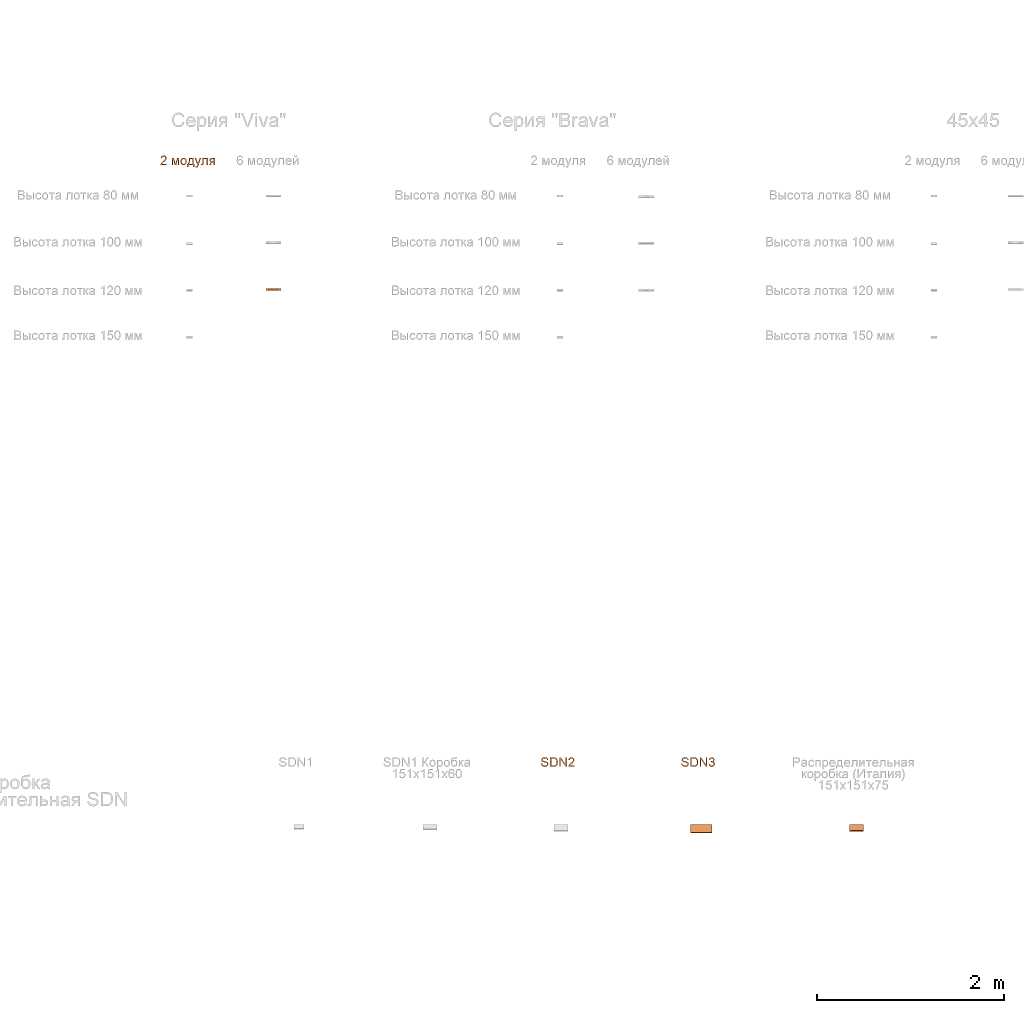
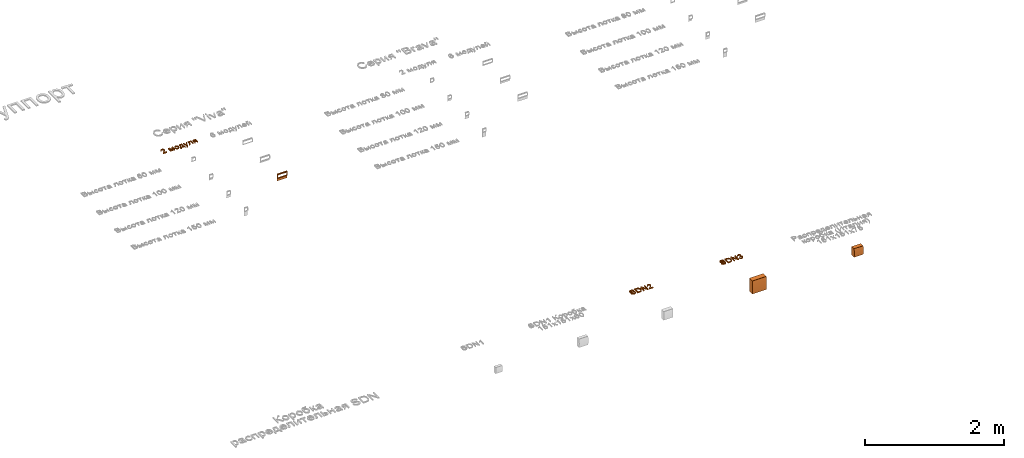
# One storey, part 35 of 71: 6 proxies.
"""IFC2X3 building model written with IfcOpenShell, lengths in millimetres."""

from ifc_helpers import new_model, entity, si_unit, converted_unit, derived_unit, direction, frame, origin, place, context, subcontext, project, spatial, polyline, outline, extrude, faceted_brep, source, transform, mapped, material, type_object, type_shapes, element, save


model = new_model("IFC2X3")

# Units and contexts
model_context = context("Model", 3, precision=0.01, world=origin(), true_north=direction((6.12303176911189e-17, 1.0)))
body_context = subcontext(model_context, "Body", "Model", "MODEL_VIEW")
ifc_project = project(units=[si_unit("LENGTHUNIT", "METRE", prefix="MILLI"), si_unit("AREAUNIT", "SQUARE_METRE"), si_unit("VOLUMEUNIT", "CUBIC_METRE"), converted_unit("PLANEANGLEUNIT", "DEGREE", entity("IfcRatioMeasure", 0.0174532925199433), si_unit("PLANEANGLEUNIT", "RADIAN"), dimensions=[0, 0, 0, 0, 0, 0, 0]), si_unit("MASSUNIT", "GRAM", prefix="KILO"), derived_unit("MASSDENSITYUNIT", [(si_unit("MASSUNIT", "GRAM", prefix="KILO"), 1), (si_unit("LENGTHUNIT", "METRE"), -3)]), si_unit("TIMEUNIT", "SECOND"), si_unit("FREQUENCYUNIT", "HERTZ"), si_unit("THERMODYNAMICTEMPERATUREUNIT", "DEGREE_CELSIUS"), derived_unit("THERMALTRANSMITTANCEUNIT", [(si_unit("MASSUNIT", "GRAM", prefix="KILO"), 1), (si_unit("THERMODYNAMICTEMPERATUREUNIT", "KELVIN"), -1), (si_unit("TIMEUNIT", "SECOND"), -3)]), derived_unit("VOLUMETRICFLOWRATEUNIT", [(si_unit("LENGTHUNIT", "METRE"), 3), (si_unit("TIMEUNIT", "SECOND"), -1)]), si_unit("ELECTRICCURRENTUNIT", "AMPERE"), si_unit("ELECTRICVOLTAGEUNIT", "VOLT"), si_unit("POWERUNIT", "WATT"), si_unit("FORCEUNIT", "NEWTON", prefix="KILO"), si_unit("ILLUMINANCEUNIT", "LUX"), si_unit("LUMINOUSFLUXUNIT", "LUMEN"), si_unit("LUMINOUSINTENSITYUNIT", "CANDELA"), derived_unit("USERDEFINED", [(si_unit("MASSUNIT", "GRAM", prefix="KILO"), -1), (si_unit("LENGTHUNIT", "METRE"), -2), (si_unit("TIMEUNIT", "SECOND"), 3), (si_unit("LUMINOUSFLUXUNIT", "LUMEN"), 1)]), derived_unit("LINEARVELOCITYUNIT", [(si_unit("LENGTHUNIT", "METRE"), 1), (si_unit("TIMEUNIT", "SECOND"), -1)]), si_unit("PRESSUREUNIT", "PASCAL"), derived_unit("USERDEFINED", [(si_unit("LENGTHUNIT", "METRE"), -2), (si_unit("MASSUNIT", "GRAM", prefix="KILO"), 1), (si_unit("TIMEUNIT", "SECOND"), -2)])], contexts=[model_context])

# Site, building, storey
site_placement = place(None, origin())
site = spatial("IfcSite", under=ifc_project, at=site_placement, Name="Default", CompositionType="ELEMENT")
building_placement = place(site_placement, origin())
building = spatial("IfcBuilding", under=site, at=building_placement, Name="Наименование здания", CompositionType="ELEMENT")
storey_placement = place(building_placement, origin())
storey = spatial("IfcBuildingStorey", under=building, at=storey_placement, Name="Этаж 01", CompositionType="ELEMENT", Elevation=0.0)

# Proxies
ifc_material = material(Name="DKC_Пластик_Белый")
building_element_proxy_type_1 = type_object("IfcBuildingElementProxyType", Name="Серия \"Viva\"", PredefinedType="NOTDEFINED", material=ifc_material)
shared_shape_1 = source(origin(), body_context, "Body", "Brep", [
    faceted_brep([(-73.8192492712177, -18.0, 46.8192492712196), (-70.9686648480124, -18.0, 48.0), (-82.0, -18.0, 48.0), (-82.0, -18.0, -2.0), (-70.9686648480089, -18.0, -2.0), (-73.8192492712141, -18.0, -0.819249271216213), (-75.0, -18.0, 2.0313351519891), (-75.0, -18.0, 43.9686648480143), (82.0, -18.0, 48.0), (70.9686648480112, -18.0, 48.0), (73.8192492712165, -18.0, 46.8192492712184), (75.0, -18.0, 43.9686648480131), (75.0, -18.0, 2.03133515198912), (73.8192492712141, -18.0, -0.819249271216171), (70.9686648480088, -18.0, -2.0), (82.0, -18.0, -2.0), (82.0, -1.0, -60.0), (82.0, 8.40000000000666, -60.0), (82.0, 8.40000000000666, -59.0), (82.0, 0.0, -59.0), (82.0, 0.0, 59.0), (82.0, 8.40000000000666, 59.0), (82.0, 8.40000000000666, 60.0), (82.0, -1.0, 60.0), (82.0, -5.39126188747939, 59.4574348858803), (82.0, -9.51840787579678, 57.862372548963), (82.0, -13.1332075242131, 55.310749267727), (82.0, -16.018245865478, 51.9560344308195), (82.0, -16.0182458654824, -5.95603443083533), (82.0, -13.133207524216, -9.31074926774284), (82.0, -9.51840787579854, -11.8623725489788), (82.0, -5.39126188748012, -13.457434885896), (82.0, -1.0, -14.0), (-82.0, -1.0, 60.0), (-82.0, 8.40000000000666, 60.0), (-82.0, 8.40000000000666, 59.0), (-82.0, 0.0, 59.0), (-82.0, 0.0, -59.0), (-82.0, 8.40000000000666, -59.0), (-82.0, 8.40000000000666, -60.0), (-82.0, -1.0, -60.0), (-82.0, -1.0, -14.0), (-82.0, -5.39126188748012, -13.457434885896), (-82.0, -9.51840787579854, -11.8623725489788), (-82.0, -13.133207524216, -9.31074926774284), (-82.0, -16.0182458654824, -5.95603443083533), (-82.0, -16.018245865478, 51.9560344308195), (-82.0, -13.1332075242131, 55.310749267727), (-82.0, -9.51840787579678, 57.862372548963), (-82.0, -5.39126188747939, 59.4574348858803), (-7.84403318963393, -1.0, 60.0), (7.84408283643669, -1.0, -14.0), (75.0, 0.0, 2.03133515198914), (73.819249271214, 0.0, -0.819249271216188), (70.9686648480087, 0.0, -2.0), (-70.9686648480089, 0.0, -2.0), (-73.8192492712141, 0.0, -0.819249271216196), (-75.0, 0.0, 2.0313351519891), (-75.0, 0.0, 43.9686648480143), (-73.8192492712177, 0.0, 46.8192492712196), (-70.9686648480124, 0.0, 48.0), (75.0, 0.0, 43.9686648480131), (73.8192492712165, 0.0, 46.8192492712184), (70.9686648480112, 0.0, 48.0), (-1.05664262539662e-07, -7.50391799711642, 58.7869038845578), (10.4878486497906, -16.6040193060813, 51.0146194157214), (0.0, -18.0, 48.0), (-8.03406533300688e-08, -11.4043260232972, 56.6977951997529), (6.74916057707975e-08, -14.6789576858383, 53.7221699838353), (-10.7041046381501, -4.32349317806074, 59.6912442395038), (-10.4878486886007, -16.6040193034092, -5.01461942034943), (0.0, -18.0, -2.0), (-2.78578905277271e-08, -14.6789576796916, -7.72216999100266), (2.49660769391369e-08, -11.4043260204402, -10.6977952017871), (10.7041051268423, -4.32349317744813, -13.6912442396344), (-2.08968314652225e-08, -7.50391799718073, -12.7869038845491)], [[[0, 1, 2, 3, 4, 5, 6, 7]], [[8, 9, 10, 11, 12, 13, 14, 15]], [[16, 17, 18, 19, 20, 21, 22, 23, 24, 25, 26, 27, 8, 15, 28, 29, 30, 31, 32]], [[33, 34, 35, 36, 37, 38, 39, 40, 41, 42, 43, 44, 45, 3, 2, 46, 47, 48, 49]], [[22, 21, 35, 34]], [[18, 17, 39, 38]], [[22, 34, 33, 50, 23]], [[16, 32, 51, 41, 40]], [[17, 16, 40, 39]], [[19, 18, 38, 37]], [[19, 52, 20]], [[52, 19, 53]], [[54, 53, 19]], [[19, 37, 54]], [[55, 54, 37]], [[56, 55, 37]], [[37, 57, 56]], [[57, 37, 36]], [[36, 58, 57]], [[58, 36, 59]], [[60, 59, 36]], [[60, 36, 20]], [[61, 20, 52]], [[20, 61, 62]], [[62, 63, 20]], [[20, 63, 60]], [[21, 20, 36, 35]], [[64, 49, 48]], [[9, 65, 1, 66]], [[67, 48, 47]], [[67, 47, 68]], [[69, 49, 64]], [[23, 69, 24]], [[68, 26, 67]], [[25, 24, 64]], [[64, 67, 25]], [[26, 25, 67]], [[46, 2, 1]], [[9, 8, 27]], [[33, 69, 23, 50]], [[64, 48, 67]], [[27, 65, 9]], [[26, 68, 27]], [[68, 65, 27]], [[65, 46, 1]], [[24, 69, 64]], [[68, 47, 46]], [[46, 65, 68]], [[33, 49, 69]], [[4, 3, 45]], [[28, 15, 14]], [[4, 70, 14, 71]], [[72, 45, 44]], [[72, 44, 73]], [[70, 45, 72]], [[74, 42, 41]], [[45, 70, 4]], [[29, 28, 72]], [[75, 43, 42]], [[32, 74, 41, 51]], [[42, 74, 75]], [[74, 32, 31]], [[29, 73, 30]], [[75, 73, 43]], [[75, 31, 30]], [[74, 31, 75]], [[73, 29, 72]], [[70, 28, 14]], [[73, 44, 43]], [[28, 70, 72]], [[73, 75, 30]], [[60, 63, 9, 66, 1]], [[0, 59, 60, 1]], [[7, 58, 59, 0]], [[58, 7, 6, 57]], [[5, 56, 57, 6]], [[4, 55, 56, 5]], [[55, 4, 71, 14, 54]], [[13, 53, 54, 14]], [[12, 52, 53, 13]], [[52, 12, 11, 61]], [[10, 62, 61, 11]], [[9, 63, 62, 10]]]),
])
type_shapes(building_element_proxy_type_1, [shared_shape_1])
proxy_1_placement = place(storey_placement, frame((4609.30353125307, -12923.4358834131, 0.0)))
element("IfcBuildingElementProxy", 1, at=proxy_1_placement, inside=storey, type_object=building_element_proxy_type_1, material=ifc_material, Name="КНС_РамкаСуппорт_ILC_DKC:Серия \"Viva\"", ObjectType="Серия \"Viva\"", context=body_context, shape_type="MappedRepresentation", body=[
    mapped(shared_shape_1, transform((0.0, 0.0, 0.0), scale=1.0)),
])
building_element_proxy_type_2 = type_object("IfcBuildingElementProxyType", Name="SDN3", PredefinedType="NOTDEFINED", material=ifc_material)
shared_shape_2 = source(origin(), body_context, "Body", "SweptSolid", [
    extrude(outline(polyline([(-68.4329595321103, -93.2812291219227), (-66.5870337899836, -93.2812291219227), (-58.5828627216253, -87.8799276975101), (-45.4173726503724, -75.7021716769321), (-28.1571532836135, -57.7345304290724), (-8.2005249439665, -35.4326353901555), (12.8357450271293, -10.6032534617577), (33.2474231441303, 14.7420864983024), (51.3808766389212, 38.5500557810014), (65.7670409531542, 58.8918743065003), (75.2404346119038, 74.119568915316), (79.0335796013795, 82.9994823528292), (78.6851036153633, 84.8122168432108), (13.1528832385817, 138.946569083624), (-133.965179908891, -39.1468768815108), (-68.4329595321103, -93.2812291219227)])), frame((-115.5, -78.3511161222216, 0.0), z_axis=(1.0, 0.0, 0.0), x_axis=(0.0, -0.770967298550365, -0.636874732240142)), (0.0, 0.0, 1.0), 231.0),
])
type_shapes(building_element_proxy_type_2, [shared_shape_2])
proxy_2_placement = place(storey_placement, frame((9181.62924654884, -18646.77075177, 0.0)))
element("IfcBuildingElementProxy", 2, at=proxy_2_placement, inside=storey, type_object=building_element_proxy_type_2, material=ifc_material, Name="КНС_КоробкаРаспределительнаяSDN_ILC_DKC:SDN3", ObjectType="SDN3", context=body_context, shape_type="MappedRepresentation", body=[
    mapped(shared_shape_2, transform((0.0, 0.0, 0.0), scale=1.0)),
])
building_element_proxy_type_3 = type_object("IfcBuildingElementProxyType", Name="Распределительная коробка (Италия) 151х151х75", PredefinedType="NOTDEFINED", material=ifc_material)
shared_shape_3 = source(origin(), body_context, "Body", "SweptSolid", [
    extrude(outline(polyline([(-32.3690628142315, -68.3253380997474), (-30.7516838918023, -68.3253380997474), (-25.4720067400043, -64.2957019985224), (-17.8448663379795, -55.2104980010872), (-8.48816824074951, -41.8057553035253), (1.84006351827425, -25.1674464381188), (12.3030970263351, -6.64350823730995), (22.0532795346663, 12.265359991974), (30.3007092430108, 30.0272742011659), (36.3772284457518, 45.2032697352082), (39.7905536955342, 56.5638776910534), (40.2641576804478, 63.1887291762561), (39.3770507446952, 64.5411181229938), (-17.8171191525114, 95.4252067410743), (-89.563232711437, -37.4412494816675), (-32.3690628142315, -68.3253380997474)])), frame((-75.5, -61.0177827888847, 0.0), z_axis=(1.0, 0.0, 0.0), x_axis=(0.0, -0.879910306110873, -0.475139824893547)), (0.0, 0.0, 1.0), 151.0),
])
type_shapes(building_element_proxy_type_3, [shared_shape_3])
proxy_3_placement = place(storey_placement, frame((10841.6292465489, -18646.77075177, 0.0)))
element("IfcBuildingElementProxy", 3, at=proxy_3_placement, inside=storey, type_object=building_element_proxy_type_3, material=ifc_material, Name="КНС_КоробкаРаспределительнаяSDN_ILC_DKC:Распределительная коробка (Италия) 151х151х75", ObjectType="Распределительная коробка (Италия) 151х151х75", context=body_context, shape_type="MappedRepresentation", body=[
    mapped(shared_shape_3, transform((0.0, 0.0, 0.0), scale=1.0)),
])
proxy_4_placement = place(storey_placement, origin())
element("IfcBuildingElementProxy", 4, at=proxy_4_placement, inside=storey, Name="Текст модели:100 мм Arial", ObjectType="Текст модели:100 мм Arial", context=body_context, shape_type="SweptSolid", body=[
    extrude(outline(polyline([(-32.3858783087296, -45.1669477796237), (-32.3858783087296, -57.7239865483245), (33.5385752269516, -57.7239865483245), (32.1896745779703, -49.0664969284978), (24.5622545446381, -35.7369059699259), (8.84143061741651, -21.1810416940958), (-12.8390816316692, -0.260818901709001), (-18.2592096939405, 13.9639515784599), (-13.1456499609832, 25.4786580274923), (0.208466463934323, 30.1752848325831), (14.1266686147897, 25.5890226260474), (19.4119066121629, 12.9093565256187), (31.9689453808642, 14.4789863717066), (28.9247218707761, 26.6252235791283), (22.3426998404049, 35.4973110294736), (12.5662358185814, 40.9235704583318), (-0.0613136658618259, 42.7323236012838), (-12.7808336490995, 40.721235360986), (-22.5389035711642, 34.6879706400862), (-28.7469122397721, 25.6748617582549), (-30.8162484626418, 14.7242410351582), (-28.5844310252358, 2.81712712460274), (-21.1654774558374, -9.49465698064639), (-3.17604789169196, -26.6992716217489), (11.2694517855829, -38.7780637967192), (16.9348345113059, -45.1669477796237), (-32.3858783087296, -45.1669477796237)])), frame((3435.30963024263, -11538.3791772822, 0.0), z_axis=(0.0, 0.0, -1.0), x_axis=(-1.0, 0.0, 0.0)), (0.0, 0.0, -1.0), 20.0),
    extrude(outline(polyline([(-40.5839870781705, -38.4502715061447), (33.1886156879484, -38.4502715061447), (33.1886156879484, -25.8932327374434), (-29.0570178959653, -25.8932327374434), (33.1886156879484, -8.62730443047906), (33.1886156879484, 7.85380895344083), (-26.2120637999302, 25.9045521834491), (33.1886156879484, 25.9045521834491), (33.1886156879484, 38.4615909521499), (-40.5839870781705, 38.4615909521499), (-40.5839870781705, 17.7620973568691), (18.4733358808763, -0.190544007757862), (-40.5839870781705, -16.8433356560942), (-40.5839870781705, -38.4502715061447)])), frame((3561.08282467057, -11562.9145481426, 0.0), z_axis=(0.0, 0.0, 1.0), x_axis=(0.0, -1.0, 0.0)), (0.0, 0.0, 1.0), 20.0),
    extrude(outline(polyline([(-2.34029740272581, -31.6984909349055), (14.2731811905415, -31.6984909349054), (27.1869525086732, -26.5873672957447), (35.9909592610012, -17.1811275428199), (40.2751441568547, -4.29577920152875), (38.1491713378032, 13.1690451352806), (27.2514955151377, 26.6485362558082), (5.67797919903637, 33.7446283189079), (-10.1280544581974, 33.6081083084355), (-22.8059382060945, 28.3900569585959), (-31.6389568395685, 18.9754531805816), (-35.910395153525, 6.24927588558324), (-35.5406401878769, -5.97109031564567), (-30.8535887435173, -16.7835237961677), (-19.5870121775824, -26.5692340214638), (-2.34029740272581, -31.6984909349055)]), holes=[polyline([(-0.642949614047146, -19.256672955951), (-11.6948097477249, -16.2599663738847), (-19.0989004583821, -10.8341828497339), (-22.9822632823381, -3.67356758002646), (-23.4719397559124, 4.52763423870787), (-20.7783225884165, 12.2046648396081), (-15.0781786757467, 18.0357050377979), (-6.56600936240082, 21.2863283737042), (4.56368400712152, 21.2221083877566), (15.8675929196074, 18.1905150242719), (23.3961896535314, 12.7474982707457), (27.3267847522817, 5.59272509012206), (27.8366887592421, -2.57413755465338), (25.1317228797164, -10.3331599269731), (19.431158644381, -16.167236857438), (10.8134498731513, -19.3753979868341), (-0.642949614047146, -19.256672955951)])]), frame((3646.96072598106, -11557.1890151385, 0.0), z_axis=(0.0, 0.0, 1.0), x_axis=(0.137105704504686, -0.990556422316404, 0.0)), (0.0, 0.0, 1.0), 20.0),
    extrude(outline(polyline([(-60.5357741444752, 21.8585403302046), (-64.1355131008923, -25.0925613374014), (-3.09908093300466, -29.7722219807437), (-3.81902872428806, -39.1624423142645), (29.0467424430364, -41.6822595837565), (30.0066728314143, -29.1619658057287), (9.66119544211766, -27.6020789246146), (13.6209082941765, 24.0441329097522), (33.9663856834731, 22.4842460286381), (34.926316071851, 35.0045398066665), (2.06054490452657, 37.5243570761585), (1.46058841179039, 29.6991734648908), (-23.1599571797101, 21.8585403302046), (-60.5357741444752, 21.8585403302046)]), holes=[polyline([(-48.855419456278, 9.94335288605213), (-20.1051961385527, 10.69076783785), (0.380666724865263, 15.6138429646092), (-2.13915054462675, -17.2519282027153), (-50.6552889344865, -13.5321979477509), (-48.855419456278, 9.94335288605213)])]), frame((3723.4461283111, -11584.360181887, 0.0), z_axis=(0.0, 0.0, -1.0), x_axis=(-0.0764456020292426, -0.997073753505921, 0.0)), (0.0, 0.0, -1.0), 20.0),
    extrude(outline(polyline([(-9.37518561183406, -42.4598564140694), (-1.53988444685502, -42.4598564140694), (7.48239978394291, -37.7362595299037), (12.8451650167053, -27.6028387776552), (16.0988896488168, -10.2155558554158), (26.1240678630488, 68.9356869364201), (13.2448947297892, 66.3022457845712), (7.58427059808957, 21.3872733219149), (5.65333119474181, 6.22303112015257), (-2.4583338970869, 21.286400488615), (-24.5276055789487, 58.5787952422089), (-37.5028919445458, 55.9257015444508), (3.36457727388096, -10.7416452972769), (3.0126738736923, -13.9176809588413), (1.50096319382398, -23.6641922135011), (-1.30543571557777, -28.1807080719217), (-6.86672236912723, -30.7321996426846), (-13.3351736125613, -30.9283412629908), (-9.37518561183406, -42.4598564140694)])), frame((3794.6036246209, -11584.6354645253, 0.0), z_axis=(0.0, 0.0, 1.0), x_axis=(0.979728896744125, -0.200327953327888, 0.0)), (0.0, 0.0, 1.0), 20.0),
    extrude(outline(polyline([(-49.3689973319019, 12.5447760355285), (-49.3689973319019, -43.9618984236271), (24.3300290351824, -43.9618984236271), (24.3300290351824, -31.4048596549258), (-36.8119585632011, -31.4048596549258), (-36.8119585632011, -0.0122627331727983), (-1.61791435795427, -0.0122627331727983), (14.6179443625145, 0.833865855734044), (21.4728122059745, 5.48144172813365), (24.403605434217, 16.4688506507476), (23.7659433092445, 26.6714446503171), (11.8465666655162, 26.6714446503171), (11.8465666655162, 21.0551128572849), (11.0740144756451, 15.3774673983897), (8.62146784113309, 13.1088617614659), (-2.32915288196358, 12.5447760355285), (-49.3689973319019, 12.5447760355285)])), frame((3863.22996703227, -11571.6995583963, 0.0), z_axis=(0.0, 0.0, -1.0), x_axis=(0.0, -1.0, 0.0)), (0.0, 0.0, -1.0), 20.0),
    extrude(outline(polyline([(-36.188006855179, -39.1855638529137), (-3.42198381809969, -39.1855638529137), (7.43666640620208, -37.7079045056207), (15.3890488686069, -33.2749264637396), (20.2634853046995, -26.4691095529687), (21.8882974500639, -17.872933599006), (17.1303569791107, -3.64816311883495), (11.0970922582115, 1.34890064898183), (2.51317903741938, 3.97925691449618), (13.2062823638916, 14.4271055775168), (25.812372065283, 34.5870389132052), (11.2932959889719, 34.5870389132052), (1.28690572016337, 18.6454857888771), (-7.46868576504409, 7.92785699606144), (-16.7883629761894, 6.33370168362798), (-23.6309680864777, 6.33370168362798), (-23.6309680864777, 34.5870389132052), (-36.188006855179, 34.5870389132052), (-36.188006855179, -39.1855638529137)]), holes=[polyline([(-23.6309680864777, -26.6285250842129), (-23.6309680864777, -6.22333708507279), (-10.7796237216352, -6.22333708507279), (4.90441200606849, -8.81077378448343), (9.3312586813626, -16.916440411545), (6.32688905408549, -23.722257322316), (-7.07627830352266, -26.6285250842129), (-23.6309680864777, -26.6285250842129)])]), frame((3946.34609121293, -11561.5161249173, 0.0), z_axis=(0.0, 0.0, 1.0), x_axis=(-1.0, 0.0, 0.0)), (0.0, 0.0, 1.0), 20.0),
])
proxy_5_placement = place(storey_placement, origin())
element("IfcBuildingElementProxy", 5, at=proxy_5_placement, inside=storey, Name="Текст модели:100 мм Arial", ObjectType="Текст модели:100 мм Arial", context=body_context, shape_type="SweptSolid", body=[
    extrude(outline(polyline([(3.84937147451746, -43.6856759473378), (23.7794632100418, -43.6856759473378), (39.8633473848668, -33.4874410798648), (50.0223326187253, -13.0514651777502), (51.423775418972, 6.29142125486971), (44.3957821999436, 21.7342280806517), (31.1640380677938, 30.1503243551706), (16.4351641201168, 30.2478071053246), (3.33579130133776, 21.3214655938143), (-8.77259240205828, 1.6530380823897), (-21.0985165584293, -16.1698870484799), (-30.5640915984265, -17.6490595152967), (-39.0604828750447, -9.38611377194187), (-38.3252577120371, 9.08738044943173), (-29.2485875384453, 25.1525376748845), (-22.7372528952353, 28.3076438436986), (-14.9001528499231, 28.4884999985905), (-11.485178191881, 40.5722564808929), (-27.9674589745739, 40.0566240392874), (-41.6940563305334, 30.1734123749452), (-50.5424116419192, 12.0303333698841), (-52.3124931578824, -6.81333876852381), (-46.1179774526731, -21.7784801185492), (-33.6250499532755, -29.832864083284), (-20.654970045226, -29.8410731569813), (-8.75822652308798, -22.1040211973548), (2.55362049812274, -4.84829175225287), (12.1400228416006, 11.4423584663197), (19.9483911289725, 18.1047913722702), (28.0558775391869, 17.9798595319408), (35.4058203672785, 13.0100350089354), (39.1668587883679, 3.14170229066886), (37.8051786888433, -10.1085122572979), (30.7951428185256, -23.7758503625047), (20.4604321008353, -31.1260497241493), (7.26434613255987, -31.6019194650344), (3.84937147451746, -43.6856759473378)])), frame((7510.84208973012, -17980.8706548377, 0.0), z_axis=(0.0, 0.0, 1.0), x_axis=(0.271957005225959, -0.962309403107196, 0.0)), (0.0, 0.0, 1.0), 20.0),
    extrude(outline(polyline([(-52.0379301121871, -47.6672876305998), (-15.7157144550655, -47.6672876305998), (0.434305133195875, -45.9505049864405), (12.4395209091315, -40.91052165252), (21.612045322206, -31.7993109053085), (28.4791758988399, -17.1698702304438), (31.152451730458, 3.10042770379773), (27.2038516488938, 26.9882319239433), (15.30900047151, 44.1560583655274), (0.544669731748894, 51.3420200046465), (-17.3834461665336, 52.7890225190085), (-52.0379301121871, 52.7890225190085), (-52.0379301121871, -47.6672876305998)]), holes=[polyline([(-39.4808913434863, -35.110248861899), (-39.4808913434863, 40.2319837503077), (-17.6041753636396, 40.2319837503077), (0.201313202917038, 38.2208955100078), (13.2365985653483, 27.0863337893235), (17.2557093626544, 16.9818416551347), (18.5954129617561, 3.29663143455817), (15.8608234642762, -15.6983422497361), (8.22114069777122, -28.1695418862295), (-1.09853651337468, -33.2953643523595), (-17.2608188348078, -35.110248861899), (-39.4808913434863, -35.110248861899)])]), frame((7619.20479709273, -17983.320135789, 0.0)), (0.0, 0.0, 1.0), 20.0),
    extrude(outline(polyline([(-39.2407461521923, -50.2306076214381), (-26.6837073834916, -50.2306076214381), (-26.6837073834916, 29.3790561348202), (25.8007905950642, -50.2306076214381), (39.2407461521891, -50.2306076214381), (39.2407461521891, 50.2257025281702), (26.6837073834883, 50.2257025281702), (26.6837073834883, -29.3594357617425), (-25.8007905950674, 50.2257025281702), (-39.2407461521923, 50.2257025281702), (-39.2407461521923, -50.2306076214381)])), frame((7706.86392328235, -17980.7568157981, 0.0)), (0.0, 0.0, 1.0), 20.0),
    extrude(outline(polyline([(-32.385878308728, -45.1669477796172), (-32.385878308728, -57.723986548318), (33.5385752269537, -57.723986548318), (32.1896745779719, -49.0664969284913), (24.5622545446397, -35.7369059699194), (8.84143061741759, -21.1810416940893), (-12.8390816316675, -0.260818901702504), (-18.2592096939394, 13.9639515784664), (-13.1456499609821, 25.4786580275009), (0.208466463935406, 30.1752848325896), (14.1266686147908, 25.5890226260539), (19.411906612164, 12.9093565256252), (31.9689453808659, 14.4789863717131), (28.9247218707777, 26.6252235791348), (22.3426998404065, 35.4973110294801), (12.5662358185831, 40.9235704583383), (-0.0613136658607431, 42.7323236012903), (-12.7808336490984, 40.7212353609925), (-22.5389035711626, 34.6879706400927), (-28.746912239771, 25.6748617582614), (-30.8162484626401, 14.7242410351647), (-28.5844310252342, 2.81712712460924), (-21.1654774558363, -9.49465698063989), (-3.17604789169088, -26.6992716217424), (11.2694517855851, -38.7780637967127), (16.9348345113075, -45.1669477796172), (-32.385878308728, -45.1669477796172)])), frame((7795.33954312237, -17973.2634368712, 0.0), z_axis=(0.0, 0.0, -1.0), x_axis=(-1.0, 0.0, 0.0)), (0.0, 0.0, -1.0), 20.0),
])
proxy_6_placement = place(storey_placement, origin())
element("IfcBuildingElementProxy", 6, at=proxy_6_placement, inside=storey, Name="Текст модели:100 мм Arial", ObjectType="Текст модели:100 мм Arial", context=body_context, shape_type="SweptSolid", body=[
    extrude(outline(polyline([(3.84937147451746, -43.6856759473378), (23.7794632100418, -43.6856759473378), (39.8633473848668, -33.4874410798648), (50.0223326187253, -13.0514651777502), (51.423775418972, 6.29142125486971), (44.3957821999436, 21.7342280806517), (31.1640380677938, 30.1503243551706), (16.4351641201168, 30.2478071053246), (3.33579130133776, 21.3214655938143), (-8.77259240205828, 1.6530380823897), (-21.0985165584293, -16.1698870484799), (-30.5640915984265, -17.6490595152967), (-39.0604828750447, -9.38611377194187), (-38.3252577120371, 9.08738044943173), (-29.2485875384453, 25.1525376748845), (-22.7372528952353, 28.3076438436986), (-14.9001528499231, 28.4884999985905), (-11.485178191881, 40.5722564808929), (-27.9674589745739, 40.0566240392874), (-41.6940563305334, 30.1734123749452), (-50.5424116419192, 12.0303333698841), (-52.3124931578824, -6.81333876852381), (-46.1179774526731, -21.7784801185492), (-33.6250499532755, -29.832864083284), (-20.654970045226, -29.8410731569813), (-8.75822652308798, -22.1040211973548), (2.55362049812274, -4.84829175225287), (12.1400228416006, 11.4423584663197), (19.9483911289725, 18.1047913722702), (28.0558775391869, 17.9798595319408), (35.4058203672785, 13.0100350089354), (39.1668587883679, 3.14170229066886), (37.8051786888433, -10.1085122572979), (30.7951428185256, -23.7758503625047), (20.4604321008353, -31.1260497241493), (7.26434613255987, -31.6019194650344), (3.84937147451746, -43.6856759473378)])), frame((9010.84208973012, -17980.8706548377, 0.0), z_axis=(0.0, 0.0, 1.0), x_axis=(0.271957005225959, -0.962309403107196, 0.0)), (0.0, 0.0, 1.0), 20.0),
    extrude(outline(polyline([(-52.0379301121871, -47.6672876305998), (-15.7157144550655, -47.6672876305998), (0.434305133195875, -45.9505049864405), (12.4395209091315, -40.91052165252), (21.612045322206, -31.7993109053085), (28.4791758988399, -17.1698702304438), (31.152451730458, 3.10042770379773), (27.2038516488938, 26.9882319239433), (15.30900047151, 44.1560583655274), (0.544669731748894, 51.3420200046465), (-17.3834461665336, 52.7890225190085), (-52.0379301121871, 52.7890225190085), (-52.0379301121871, -47.6672876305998)]), holes=[polyline([(-39.4808913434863, -35.110248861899), (-39.4808913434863, 40.2319837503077), (-17.6041753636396, 40.2319837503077), (0.201313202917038, 38.2208955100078), (13.2365985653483, 27.0863337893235), (17.2557093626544, 16.9818416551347), (18.5954129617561, 3.29663143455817), (15.8608234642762, -15.6983422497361), (8.22114069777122, -28.1695418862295), (-1.09853651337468, -33.2953643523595), (-17.2608188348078, -35.110248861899), (-39.4808913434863, -35.110248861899)])]), frame((9119.20479709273, -17983.320135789, 0.0)), (0.0, 0.0, 1.0), 20.0),
    extrude(outline(polyline([(-39.2407461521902, -50.2306076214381), (-26.6837073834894, -50.2306076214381), (-26.6837073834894, 29.3790561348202), (25.8007905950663, -50.2306076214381), (39.2407461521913, -50.2306076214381), (39.2407461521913, 50.2257025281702), (26.6837073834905, 50.2257025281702), (26.6837073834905, -29.3594357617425), (-25.8007905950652, 50.2257025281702), (-39.2407461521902, 50.2257025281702), (-39.2407461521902, -50.2306076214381)])), frame((9206.86392328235, -17980.7568157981, 0.0)), (0.0, 0.0, 1.0), 20.0),
    extrude(outline(polyline([(12.9398224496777, -39.4228746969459), (24.7070155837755, -39.4228746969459), (35.233417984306, -35.1796885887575), (43.5392113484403, -27.2068749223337), (48.6445773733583, -16.0179922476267), (49.966729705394, -2.46420805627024), (46.1713151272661, 9.85942403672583), (38.2123508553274, 19.5155094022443), (27.043854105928, 25.0666534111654), (10.0202742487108, 24.7454624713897), (-1.87398827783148, 13.8140826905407), (-7.17156856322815, 25.9452321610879), (-17.4163250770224, 32.3622268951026), (-30.6023287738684, 32.1723416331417), (-42.4844766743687, 24.4416767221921), (-49.8086882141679, 10.7455169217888), (-51.019451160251, -0.289536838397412), (-48.3411699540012, -10.3555163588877), (-41.9598673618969, -18.9246782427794), (-32.0615661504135, -25.4692790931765), (-27.2304373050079, -13.7729910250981), (-36.9582136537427, -4.72585730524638), (-37.5811201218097, 7.85403171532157), (-30.7090409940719, 18.2284262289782), (-20.0239599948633, 20.056910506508), (-14.1616694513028, 16.8110341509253), (-11.0038541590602, 11.0256101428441), (-11.2910014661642, -3.66989129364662), (-11.9642066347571, -5.57066078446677), (-0.222565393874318, -10.236210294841), (0.778769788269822, -1.38153044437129), (9.50511511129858, 11.0278528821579), (23.5137057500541, 13.0140189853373), (35.3107062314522, 3.90868905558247), (37.5820165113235, -3.60465058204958), (36.6502541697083, -12.2749561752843), (29.3231481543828, -23.7071568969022), (14.7432148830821, -26.8972714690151), (12.9398224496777, -39.4228746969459)])), frame((9297.9745785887, -17981.4090318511, 0.0), z_axis=(0.0, 0.0, 1.0), x_axis=(0.264175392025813, -0.964474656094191, 0.0)), (0.0, 0.0, 1.0), 20.0),
])

save(model, "model.ifc")
